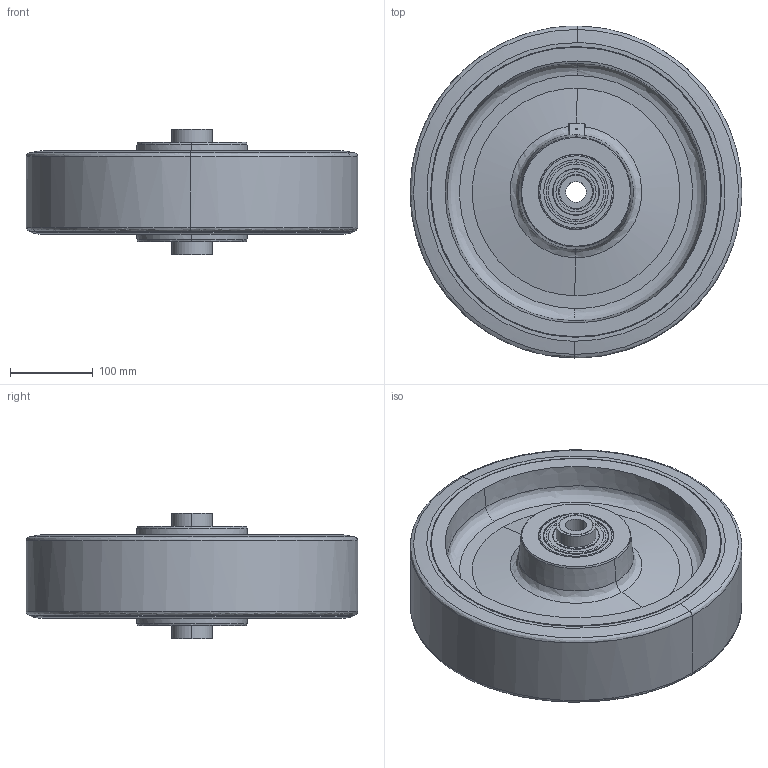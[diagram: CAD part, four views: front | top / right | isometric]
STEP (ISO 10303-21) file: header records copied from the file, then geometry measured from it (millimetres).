
FILE_DESCRIPTION (( 'STEP AP203' ), '1' );
FILE_NAME ('600060_STEP.STEP', '2017-08-29T12:16:15', ( '' ), ( '' ), 'SwSTEP 2.0', 'SolidWorks 2017', '' );
FILE_SCHEMA (( 'CONFIG_CONTROL_DESIGN' ));
Length unit declared in the file: millimetre
Products named in the file (4): 1504536; 600060_STEP; AKSELIHOLKKI 40X25X150,5 L; VÄLIHOLKKI 48,3X41,8X15,9 L
Assembly tree (4 placements, depth 2):
  600060_STEP
    AKSELIHOLKKI 40X25X150,5 L
    1504536
    VÄLIHOLKKI 48,3X41,8X15,9 L  x2
Bounding box: 399.99 x 399.98 x 151 mm (x, y, z)
Volume: 129874.4 mm3; surface area: 648453.8 mm2
Topology: 3 solids, 13 shells, 145 faces, 333 edges, 209 vertices
Faces by surface type: bspline 86, cylinder 34, plane 25
Entity records: 32029 total; most frequent: CARTESIAN_POINT 29180, ORIENTED_EDGE 602, EDGE_CURVE 319, B_SPLINE_CURVE_WITH_KNOTS 247, DIRECTION 234, VERTEX_POINT 201, EDGE_LOOP 160, FACE_OUTER_BOUND 139
